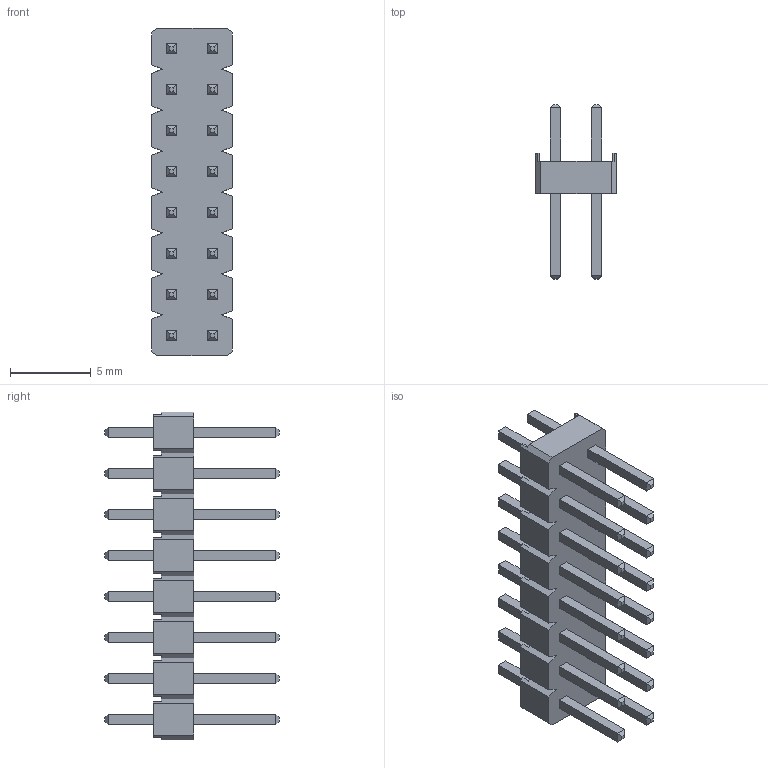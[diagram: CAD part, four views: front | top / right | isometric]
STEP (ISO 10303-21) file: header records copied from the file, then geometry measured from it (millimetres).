
FILE_DESCRIPTION (( 'STEP AP214' ), '1' );
FILE_NAME ('CFAPN14409.STEP', '2021-02-17T22:07:43', ( '' ), ( '' ), 'SwSTEP 2.0', 'SolidWorks 2020', '' );
FILE_SCHEMA (( 'AUTOMOTIVE_DESIGN' ));
Length unit declared in the file: millimetre
Products named in the file (1): CFAPN14409
Bounding box: 5 x 10.8 x 20.32 mm (x, y, z)
Volume: 258.4 mm3; surface area: 709.4 mm2
Topology: 1 solids, 1 shells, 390 faces, 940 edges, 584 vertices
Faces by surface type: plane 390
Entity records: 14626 total; most frequent: CARTESIAN_POINT 1915, ORIENTED_EDGE 1880, DIRECTION 1722, EDGE_CURVE 940, VECTOR 940, LINE 940, VERTEX_POINT 584, EDGE_LOOP 422
